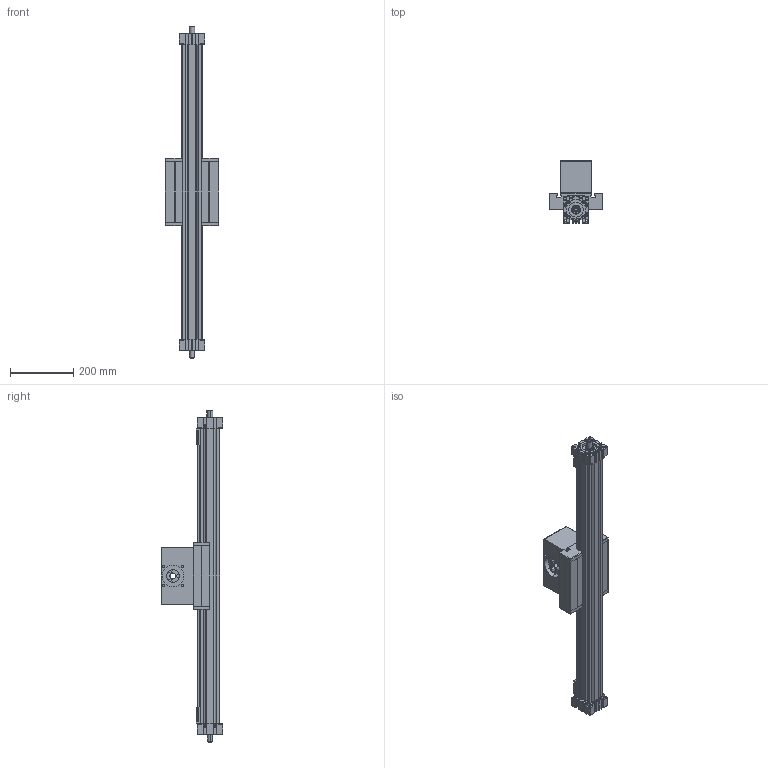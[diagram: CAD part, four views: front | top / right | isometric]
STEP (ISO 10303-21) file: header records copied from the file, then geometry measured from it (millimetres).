
FILE_DESCRIPTION (( 'STEP AP214' ), '1' );
FILE_NAME ('ELSD60S HD.STEP', '2022-12-07T12:38:02', ( '' ), ( '' ), 'SwSTEP 2.0', 'SolidWorks 2020', '' );
FILE_SCHEMA (( 'AUTOMOTIVE_DESIGN' ));
Length unit declared in the file: millimetre
Products named in the file (6): carriage^ELSD60S HD_carriage version 0; timing belt reverse unit^ELSD60S HD_coupling claw pos.1; ELSD60S HD; drive block^ELSD60S HD_standard; profile^ELSD60S HD_2x guide rods; load block^ELSD60S HD_standard
Assembly tree (5 placements, depth 2):
  ELSD60S HD
    profile^ELSD60S HD_2x guide rods
    carriage^ELSD60S HD_carriage version 0
    timing belt reverse unit^ELSD60S HD_coupling claw pos.1
    load block^ELSD60S HD_standard
    drive block^ELSD60S HD_standard
Bounding box: 170 x 196 x 1050 mm (x, y, z)
Volume: 5622138.3 mm3; surface area: 915655.9 mm2
Topology: 14 solids, 14 shells, 1129 faces, 3152 edges, 2072 vertices
Faces by surface type: plane 763, cylinder 310, cone 44, torus 8, sphere 4
Entity records: 39002 total; most frequent: CARTESIAN_POINT 6589, ORIENTED_EDGE 6296, DIRECTION 6092, EDGE_CURVE 3148, VECTOR 2406, LINE 2406, VERTEX_POINT 2072, AXIS2_PLACEMENT_3D 1843
